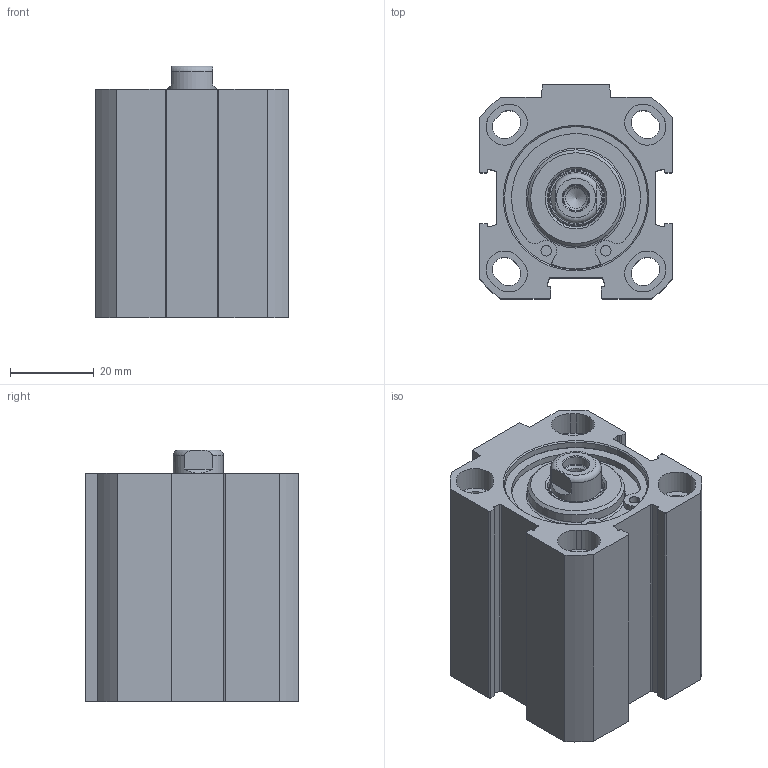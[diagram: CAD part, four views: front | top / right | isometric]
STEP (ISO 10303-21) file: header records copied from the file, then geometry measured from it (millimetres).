
FILE_DESCRIPTION(/* description */ ('Unknown'),/* implementation_level */ '2;1');
FILE_NAME(/* name */ 'FEN 32_15',/* time_stamp */ '2026-06-09T10:00:34+02:00',/* author */ ('Unknown'),/* organization */ ('Unknown'),/* preprocessor_version */ 'ST-DEVELOPER v18.102',/* originating_system */ 'Solid Edge',/* authorisation */ 'Unknown');
FILE_SCHEMA (('AUTOMOTIVE_DESIGN {1 0 10303 214 3 1 1}'));
Length unit declared in the file: millimetre
Products named in the file (5): FEN 32_15; Kolbenstange; Profilrohr; Kit_1; Kit_2
Assembly tree (4 placements, depth 2):
  FEN 32_15
    Kolbenstange
    Profilrohr
    Kit_1
    Kit_2
Bounding box: 46 x 51 x 60 mm (x, y, z)
Volume: 87298 mm3; surface area: 36270.6 mm2
Topology: 4 solids, 4 shells, 233 faces, 569 edges, 369 vertices
Faces by surface type: plane 103, cylinder 94, cone 25, torus 11
Full cylindrical faces by diameter (mm): 1.6 x2, 2.5 x4, 4.917 x2, 6.25 x1, 8.566 x4, 12 x1, 12.54 x1, 13.7 x1, 16.32 x1, 16.5 x1, 23 x2, 32 x2, 33.7 x4, 34.1 x2, 35.8 x2
Entity records: 8231 total; most frequent: CARTESIAN_POINT 1177, DIRECTION 1176, ORIENTED_EDGE 966, EDGE_CURVE 483, AXIS2_PLACEMENT_3D 461, VERTEX_POINT 350, FACE_BOUND 341, EDGE_LOOP 340
